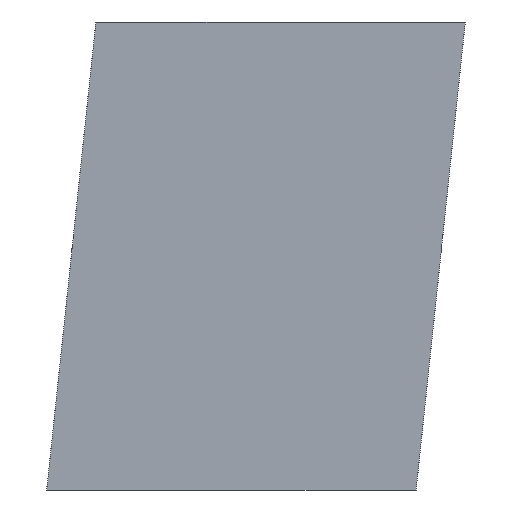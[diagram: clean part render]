
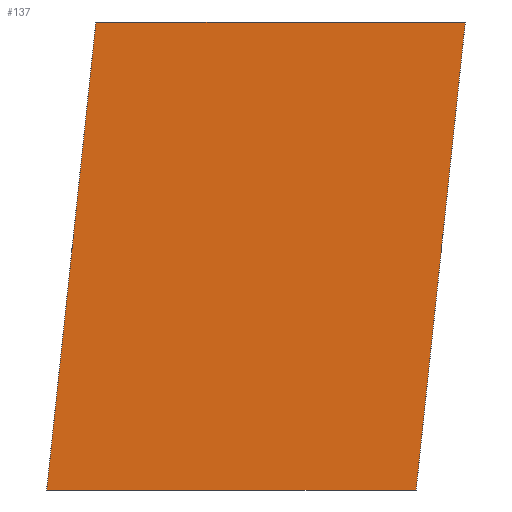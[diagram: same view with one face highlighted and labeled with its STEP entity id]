
A CAD part, left-side view. The second image highlights one B-rep face of the part: STEP entity #137.
In plain terms, the highlighted planar face has unit normal (-1, 0, 0).
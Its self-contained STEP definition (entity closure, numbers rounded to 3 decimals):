
#21 = EDGE_CURVE('',#22,#24,#26,.T.);
#22 = VERTEX_POINT('',#23);
#23 = CARTESIAN_POINT('',(-29.,9.38,-6.333));
#24 = VERTEX_POINT('',#25);
#25 = CARTESIAN_POINT('',(-29.,8.714,0.));
#26 = SURFACE_CURVE('',#27,(#31,#43),.PCURVE_S1.);
#27 = LINE('',#28,#29);
#28 = CARTESIAN_POINT('',(-29.,9.38,-6.333));
#29 = VECTOR('',#30,1.);
#30 = DIRECTION('',(0.,-0.105,0.995));
#31 = PCURVE('',#32,#37);
#32 = PLANE('',#33);
#33 = AXIS2_PLACEMENT_3D('',#34,#35,#36);
#34 = CARTESIAN_POINT('',(-29.,9.38,-6.333));
#35 = DIRECTION('',(0.,-0.995,-0.105));
#36 = DIRECTION('',(0.,-0.105,0.995));
#37 = DEFINITIONAL_REPRESENTATION('',(#38),#42);
#38 = LINE('',#39,#40);
#39 = CARTESIAN_POINT('',(0.,0.));
#40 = VECTOR('',#41,1.);
#41 = DIRECTION('',(1.,0.));
#42 = ( GEOMETRIC_REPRESENTATION_CONTEXT(2) 
PARAMETRIC_REPRESENTATION_CONTEXT() REPRESENTATION_CONTEXT('2D SPACE',''
  ) );
#43 = PCURVE('',#44,#49);
#44 = PLANE('',#45);
#45 = AXIS2_PLACEMENT_3D('',#46,#47,#48);
#46 = CARTESIAN_POINT('',(-29.,3.043,30.167));
#47 = DIRECTION('',(1.,0.,0.));
#48 = DIRECTION('',(-0.,0.,1.));
#49 = DEFINITIONAL_REPRESENTATION('',(#50),#54);
#50 = LINE('',#51,#52);
#51 = CARTESIAN_POINT('',(-36.5,-6.336));
#52 = VECTOR('',#53,1.);
#53 = DIRECTION('',(0.995,0.105));
#54 = ( GEOMETRIC_REPRESENTATION_CONTEXT(2) 
PARAMETRIC_REPRESENTATION_CONTEXT() REPRESENTATION_CONTEXT('2D SPACE',''
  ) );
#72 = PLANE('',#73);
#73 = AXIS2_PLACEMENT_3D('',#74,#75,#76);
#74 = CARTESIAN_POINT('',(-29.,4.38,-6.333));
#75 = DIRECTION('',(0.,0.,1.));
#76 = DIRECTION('',(0.,1.,0.));
#126 = PLANE('',#127);
#127 = AXIS2_PLACEMENT_3D('',#128,#129,#130);
#128 = CARTESIAN_POINT('',(-400.,-388.,0.));
#129 = DIRECTION('',(0.,0.,1.));
#130 = DIRECTION('',(1.,0.,0.));
#137 = ADVANCED_FACE('',(#138),#44,.F.);
#138 = FACE_BOUND('',#139,.F.);
#139 = EDGE_LOOP('',(#140,#163,#164,#187));
#140 = ORIENTED_EDGE('',*,*,#141,.T.);
#141 = EDGE_CURVE('',#142,#22,#144,.T.);
#142 = VERTEX_POINT('',#143);
#143 = CARTESIAN_POINT('',(-29.,4.38,-6.333));
#144 = SURFACE_CURVE('',#145,(#149,#156),.PCURVE_S1.);
#145 = LINE('',#146,#147);
#146 = CARTESIAN_POINT('',(-29.,4.38,-6.333));
#147 = VECTOR('',#148,1.);
#148 = DIRECTION('',(0.,1.,0.));
#149 = PCURVE('',#44,#150);
#150 = DEFINITIONAL_REPRESENTATION('',(#151),#155);
#151 = LINE('',#152,#153);
#152 = CARTESIAN_POINT('',(-36.5,-1.336));
#153 = VECTOR('',#154,1.);
#154 = DIRECTION('',(0.,-1.));
#155 = ( GEOMETRIC_REPRESENTATION_CONTEXT(2) 
PARAMETRIC_REPRESENTATION_CONTEXT() REPRESENTATION_CONTEXT('2D SPACE',''
  ) );
#156 = PCURVE('',#72,#157);
#157 = DEFINITIONAL_REPRESENTATION('',(#158),#162);
#158 = LINE('',#159,#160);
#159 = CARTESIAN_POINT('',(0.,0.));
#160 = VECTOR('',#161,1.);
#161 = DIRECTION('',(1.,0.));
#162 = ( GEOMETRIC_REPRESENTATION_CONTEXT(2) 
PARAMETRIC_REPRESENTATION_CONTEXT() REPRESENTATION_CONTEXT('2D SPACE',''
  ) );
#163 = ORIENTED_EDGE('',*,*,#21,.T.);
#164 = ORIENTED_EDGE('',*,*,#165,.T.);
#165 = EDGE_CURVE('',#24,#166,#168,.T.);
#166 = VERTEX_POINT('',#167);
#167 = CARTESIAN_POINT('',(-29.,3.714,0.));
#168 = SURFACE_CURVE('',#169,(#173,#180),.PCURVE_S1.);
#169 = LINE('',#170,#171);
#170 = CARTESIAN_POINT('',(-29.,-192.478,0.));
#171 = VECTOR('',#172,1.);
#172 = DIRECTION('',(0.,-1.,0.));
#173 = PCURVE('',#44,#174);
#174 = DEFINITIONAL_REPRESENTATION('',(#175),#179);
#175 = LINE('',#176,#177);
#176 = CARTESIAN_POINT('',(-30.167,195.522));
#177 = VECTOR('',#178,1.);
#178 = DIRECTION('',(0.,1.));
#179 = ( GEOMETRIC_REPRESENTATION_CONTEXT(2) 
PARAMETRIC_REPRESENTATION_CONTEXT() REPRESENTATION_CONTEXT('2D SPACE',''
  ) );
#180 = PCURVE('',#126,#181);
#181 = DEFINITIONAL_REPRESENTATION('',(#182),#186);
#182 = LINE('',#183,#184);
#183 = CARTESIAN_POINT('',(371.,195.522));
#184 = VECTOR('',#185,1.);
#185 = DIRECTION('',(0.,-1.));
#186 = ( GEOMETRIC_REPRESENTATION_CONTEXT(2) 
PARAMETRIC_REPRESENTATION_CONTEXT() REPRESENTATION_CONTEXT('2D SPACE',''
  ) );
#187 = ORIENTED_EDGE('',*,*,#188,.T.);
#188 = EDGE_CURVE('',#166,#142,#189,.T.);
#189 = SURFACE_CURVE('',#190,(#194,#201),.PCURVE_S1.);
#190 = LINE('',#191,#192);
#191 = CARTESIAN_POINT('',(-29.,-3.293,66.667));
#192 = VECTOR('',#193,1.);
#193 = DIRECTION('',(0.,0.105,-0.995));
#194 = PCURVE('',#44,#195);
#195 = DEFINITIONAL_REPRESENTATION('',(#196),#200);
#196 = LINE('',#197,#198);
#197 = CARTESIAN_POINT('',(36.5,6.336));
#198 = VECTOR('',#199,1.);
#199 = DIRECTION('',(-0.995,-0.105));
#200 = ( GEOMETRIC_REPRESENTATION_CONTEXT(2) 
PARAMETRIC_REPRESENTATION_CONTEXT() REPRESENTATION_CONTEXT('2D SPACE',''
  ) );
#201 = PCURVE('',#202,#207);
#202 = PLANE('',#203);
#203 = AXIS2_PLACEMENT_3D('',#204,#205,#206);
#204 = CARTESIAN_POINT('',(-29.,-3.293,66.667));
#205 = DIRECTION('',(-0.,0.995,0.105));
#206 = DIRECTION('',(0.,0.105,-0.995));
#207 = DEFINITIONAL_REPRESENTATION('',(#208),#212);
#208 = LINE('',#209,#210);
#209 = CARTESIAN_POINT('',(0.,0.));
#210 = VECTOR('',#211,1.);
#211 = DIRECTION('',(1.,0.));
#212 = ( GEOMETRIC_REPRESENTATION_CONTEXT(2) 
PARAMETRIC_REPRESENTATION_CONTEXT() REPRESENTATION_CONTEXT('2D SPACE',''
  ) );
